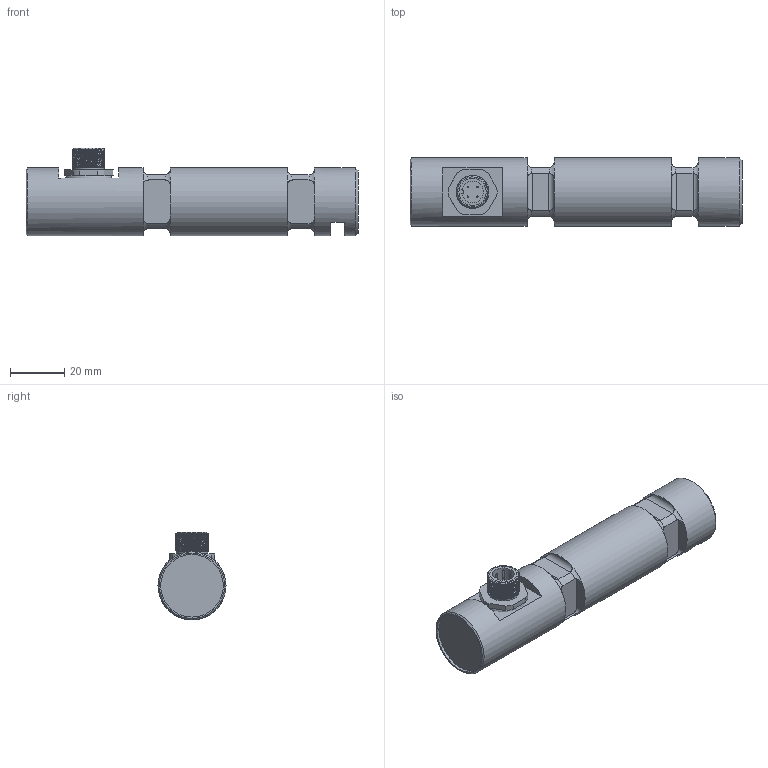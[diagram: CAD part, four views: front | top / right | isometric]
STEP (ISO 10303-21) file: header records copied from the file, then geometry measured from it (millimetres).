
FILE_DESCRIPTION(/* description */ ('Alibre Inc.'),/* implementation_level */ '2;1');
FILE_NAME(/* name */ 'export0',/* time_stamp */ '2018-09-11T11:20:57+02:00',/* author */ (''),/* organization */ (''),/* preprocessor_version */ 'ST-DEVELOPER v17',/* originating_system */ 'Alibre',/* authorisation */ '');
FILE_SCHEMA (('CONFIG_CONTROL_DESIGN'));
Length unit declared in the file: centimetre
Products named in the file (6): ID_1; ID_2; ID_3; ID_4
Bounding box: 122 x 25 x 32.17 mm (x, y, z)
Volume: 55206.6 mm3; surface area: 14910.9 mm2
Topology: 8 solids, 8 shells, 200 faces, 456 edges, 279 vertices
Faces by surface type: plane 83, cylinder 71, bspline 23, torus 17, cone 6
Full cylindrical faces by diameter (mm): 0.5 x8, 8 x2, 10 x4, 11.5 x1, 13 x1, 14.376 x1, 23 x1, 25 x3
Entity records: 18007 total; most frequent: CARTESIAN_POINT 13831, ORIENTED_EDGE 838, DIRECTION 511, EDGE_CURVE 414, VERTEX_POINT 267, FACE_BOUND 244, EDGE_LOOP 243, AXIS2_PLACEMENT_3D 226
